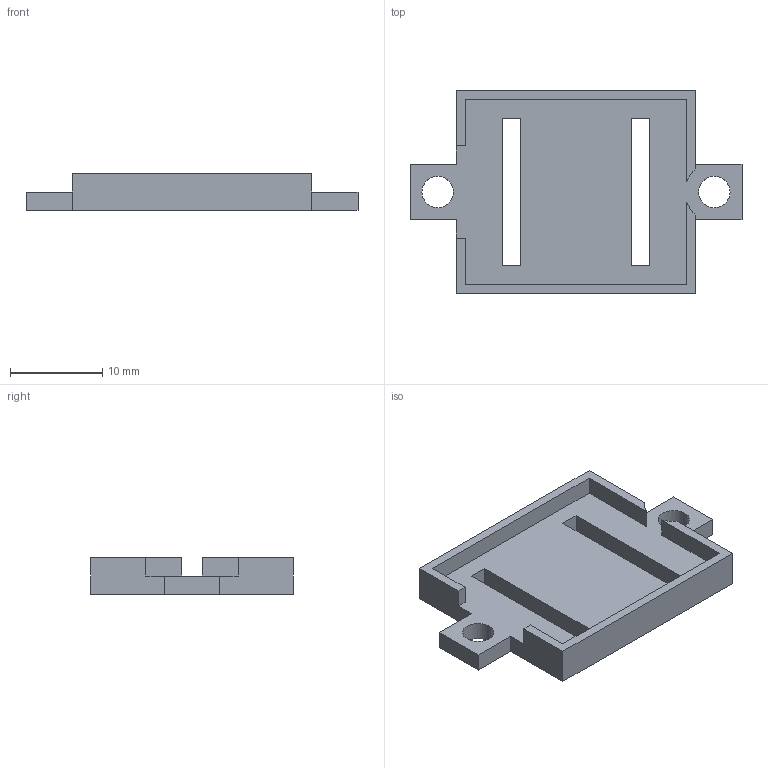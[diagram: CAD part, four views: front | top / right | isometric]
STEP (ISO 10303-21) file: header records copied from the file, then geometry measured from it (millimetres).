
FILE_DESCRIPTION(('Open CASCADE Model'),'2;1');
FILE_NAME('Open CASCADE Shape Model','2026-10-05T06:01:10',('Author'),( 'Open CASCADE'),'Open CASCADE STEP processor 7.8','Open CASCADE 7.8' ,'Unknown');
FILE_SCHEMA(('AUTOMOTIVE_DESIGN { 1 0 10303 214 1 1 1 1 }'));
Length unit declared in the file: millimetre
Products named in the file (1): Open CASCADE STEP translator 7.8 11
Bounding box: 36 x 22 x 4 mm (x, y, z)
Volume: 1255.9 mm3; surface area: 1842.9 mm2
Topology: 1 solids, 1 shells, 36 faces, 102 edges, 68 vertices
Faces by surface type: plane 32, cylinder 4
Full cylindrical faces by diameter (mm): 3.4 x2
Entity records: 2456 total; most frequent: CARTESIAN_POINT 515, DIRECTION 314, LINE 222, VECTOR 222, ORIENTED_EDGE 204, PCURVE 204, DEFINITIONAL_REPRESENTATION 204, EDGE_CURVE 102
